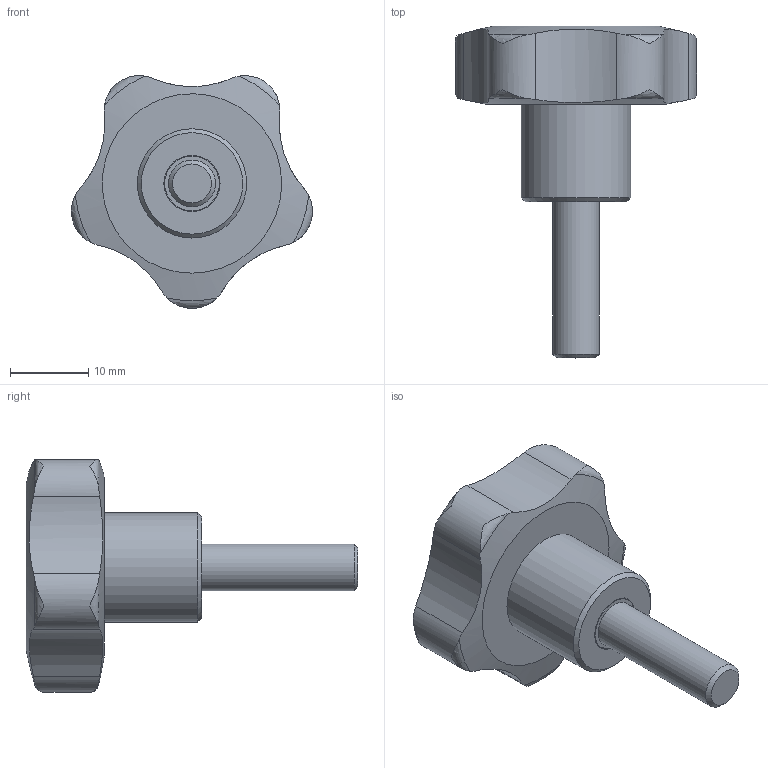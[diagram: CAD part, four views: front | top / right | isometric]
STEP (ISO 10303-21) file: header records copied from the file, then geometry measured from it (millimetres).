
FILE_DESCRIPTION( ( 'STEP AP203' ), '1' );
FILE_NAME( 'C:/Temp/Ganter_Step_05_03_2020/data/2_2/gn_5337_4/gn_5337_4_s/Star knob GN 5337.4-32-M6-20.stp', '2020-03-05T12:09:41', ( 'License CC BY-ND 4.0' ), ( 'CADENAS' ), ' ', 'PARTsolutions', ' ' );
FILE_SCHEMA( ( 'CONFIG_CONTROL_DESIGN' ) );
Length unit declared in the file: millimetre
Products named in the file (1): _Star knob GN 5337.4-32-M6-20
Bounding box: 30.87 x 42.5 x 29.8 mm (x, y, z)
Volume: 8380.9 mm3; surface area: 3010.3 mm2
Topology: 1 solids, 1 shells, 34 faces, 90 edges, 61 vertices
Faces by surface type: cylinder 14, torus 10, plane 5, cone 3, bspline 1, sphere 1
Full cylindrical faces by diameter (mm): 6 x1, 7 x1, 7.2 x1, 14 x1
Entity records: 1437 total; most frequent: CARTESIAN_POINT 674, ORIENTED_EDGE 154, DIRECTION 122, EDGE_CURVE 77, VERTEX_POINT 58, AXIS2_PLACEMENT_3D 56, EDGE_LOOP 46, B_SPLINE_CURVE_WITH_KNOTS 45
